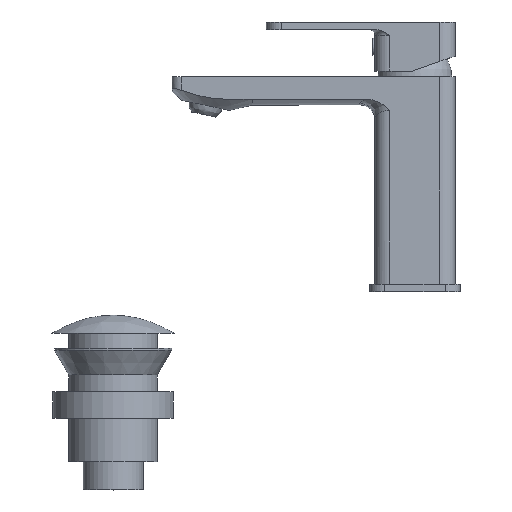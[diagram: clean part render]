
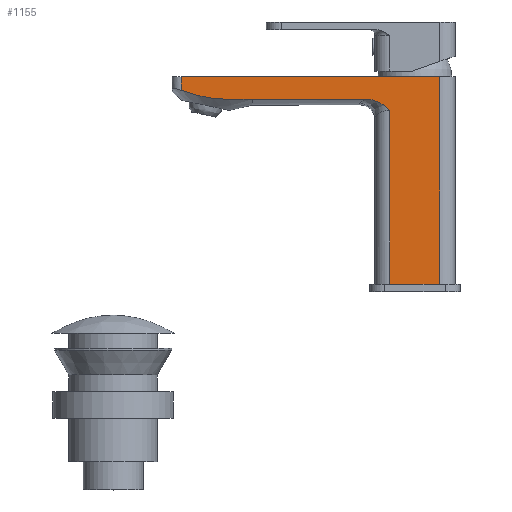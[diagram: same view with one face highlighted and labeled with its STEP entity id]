
A CAD part, top view. The second image highlights one B-rep face of the part: STEP entity #1155.
In plain terms, the highlighted planar face has unit normal (0, 0, 1).
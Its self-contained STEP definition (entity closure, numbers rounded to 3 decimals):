
#65=PLANE('',#1288);
#103=LINE('',#1826,#181);
#107=LINE('',#1920,#185);
#109=LINE('',#2108,#187);
#120=LINE('',#2145,#198);
#134=LINE('',#2183,#212);
#139=LINE('',#2193,#217);
#140=LINE('',#5760,#218);
#181=VECTOR('',#1446,10.);
#185=VECTOR('',#1460,10.);
#187=VECTOR('',#1486,10.);
#198=VECTOR('',#1517,10.);
#212=VECTOR('',#1561,10.);
#217=VECTOR('',#1574,10.);
#218=VECTOR('',#1589,10.);
#305=FACE_OUTER_BOUND('',#378,.T.);
#378=EDGE_LOOP('',(#1025,#1026,#1027,#1028,#1029,#1030,#1031,#1032,#1033));
#403=B_SPLINE_CURVE_WITH_KNOTS('',3,(#1986,#1987,#1988,#1989,#1990,#1991,
#1992,#1993,#1994,#1995),.UNSPECIFIED.,.F.,.F.,(4,2,2,2,4),(-0.002,
0.,0.444,0.906,1.419),.UNSPECIFIED.);
#457=CIRCLE('',#1287,67.786);
#520=VERTEX_POINT('',#1823);
#521=VERTEX_POINT('',#1825);
#527=VERTEX_POINT('',#1907);
#534=VERTEX_POINT('',#1977);
#535=VERTEX_POINT('',#1985);
#540=VERTEX_POINT('',#2107);
#555=VERTEX_POINT('',#2142);
#556=VERTEX_POINT('',#2144);
#573=VERTEX_POINT('',#5759);
#654=EDGE_CURVE('',#521,#520,#103,.T.);
#663=EDGE_CURVE('',#527,#520,#107,.T.);
#671=EDGE_CURVE('',#534,#535,#403,.T.);
#679=EDGE_CURVE('',#540,#535,#109,.T.);
#697=EDGE_CURVE('',#555,#556,#120,.T.);
#717=EDGE_CURVE('',#521,#555,#134,.T.);
#723=EDGE_CURVE('',#556,#534,#139,.T.);
#731=EDGE_CURVE('',#573,#540,#140,.T.);
#732=EDGE_CURVE('',#527,#573,#457,.T.);
#1025=ORIENTED_EDGE('',*,*,#663,.F.);
#1026=ORIENTED_EDGE('',*,*,#732,.T.);
#1027=ORIENTED_EDGE('',*,*,#731,.T.);
#1028=ORIENTED_EDGE('',*,*,#679,.T.);
#1029=ORIENTED_EDGE('',*,*,#671,.F.);
#1030=ORIENTED_EDGE('',*,*,#723,.F.);
#1031=ORIENTED_EDGE('',*,*,#697,.F.);
#1032=ORIENTED_EDGE('',*,*,#717,.F.);
#1033=ORIENTED_EDGE('',*,*,#654,.T.);
#1155=ADVANCED_FACE('',(#305),#65,.T.);
#1287=AXIS2_PLACEMENT_3D('',#5761,#1590,#1591);
#1288=AXIS2_PLACEMENT_3D('',#5762,#1592,#1593);
#1446=DIRECTION('',(-1.,0.,0.));
#1460=DIRECTION('',(0.,1.,0.));
#1486=DIRECTION('',(1.,0.,0.));
#1517=DIRECTION('',(-1.,0.,0.));
#1561=DIRECTION('',(0.,-1.,0.));
#1574=DIRECTION('',(0.,1.,0.));
#1589=DIRECTION('',(1.,0.,0.));
#1590=DIRECTION('center_axis',(0.,0.,1.));
#1591=DIRECTION('ref_axis',(-0.443,-0.897,0.));
#1592=DIRECTION('center_axis',(0.,0.,
1.));
#1593=DIRECTION('ref_axis',(-1.,0.,0.));
#1823=CARTESIAN_POINT('',(-123.75,-14.,21.25));
#1825=CARTESIAN_POINT('',(13.25,-14.,21.25));
#1826=CARTESIAN_POINT('',(21.25,-14.,21.25));
#1907=CARTESIAN_POINT('',(-123.75,-21.221,21.25));
#1920=CARTESIAN_POINT('',(-123.75,-16.952,21.25));
#1977=CARTESIAN_POINT('',(-13.25,-31.793,21.25));
#1985=CARTESIAN_POINT('',(-25.565,-26.,21.25));
#1986=CARTESIAN_POINT('Ctrl Pts',(-13.25,-31.793,21.25));
#1987=CARTESIAN_POINT('Ctrl Pts',(-13.254,-31.789,21.25));
#1988=CARTESIAN_POINT('Ctrl Pts',(-13.258,-31.785,21.25));
#1989=CARTESIAN_POINT('Ctrl Pts',(-14.31,-30.734,21.25));
#1990=CARTESIAN_POINT('Ctrl Pts',(-15.398,-29.799,21.25));
#1991=CARTESIAN_POINT('Ctrl Pts',(-17.866,-28.114,21.25));
#1992=CARTESIAN_POINT('Ctrl Pts',(-19.213,-27.404,21.25));
#1993=CARTESIAN_POINT('Ctrl Pts',(-22.224,-26.321,21.25));
#1994=CARTESIAN_POINT('Ctrl Pts',(-23.888,-26.,21.25));
#1995=CARTESIAN_POINT('Ctrl Pts',(-25.565,-26.,21.25));
#2107=CARTESIAN_POINT('',(-86.25,-26.,21.25));
#2108=CARTESIAN_POINT('',(-98.75,-26.,21.25));
#2142=CARTESIAN_POINT('',(13.25,-124.,21.25));
#2144=CARTESIAN_POINT('',(-13.25,-124.,21.25));
#2145=CARTESIAN_POINT('',(21.25,-124.,21.25));
#2183=CARTESIAN_POINT('',(13.25,-14.,21.25));
#2193=CARTESIAN_POINT('',(-13.25,-14.,21.25));
#5759=CARTESIAN_POINT('',(-98.75,-26.,21.25));
#5760=CARTESIAN_POINT('',(-98.75,-26.,21.25));
#5761=CARTESIAN_POINT('Origin',(-98.75,41.786,21.25));
#5762=CARTESIAN_POINT('Origin',(21.25,-14.,21.25));
